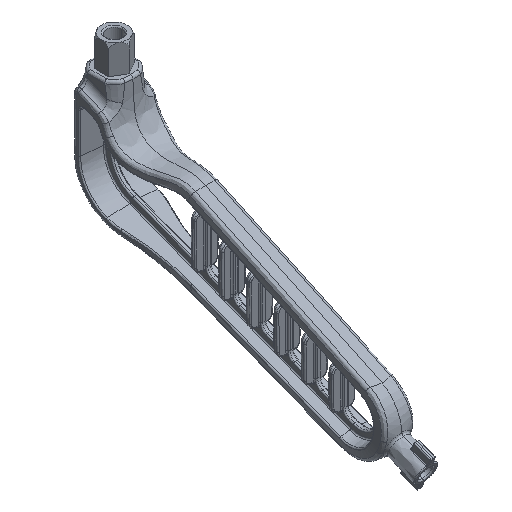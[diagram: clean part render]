
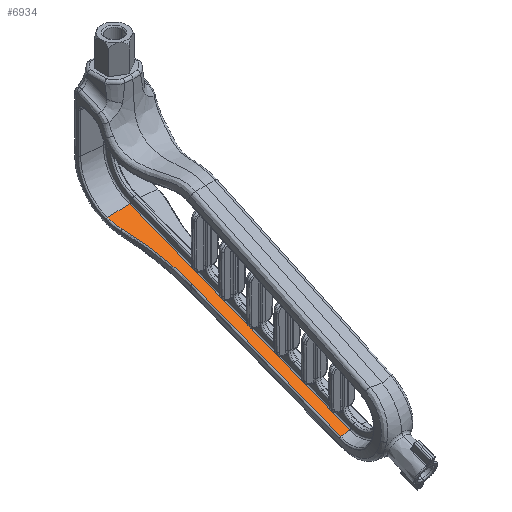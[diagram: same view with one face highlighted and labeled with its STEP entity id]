
A CAD part, isometric view. The second image highlights one B-rep face of the part: STEP entity #6934.
In plain terms, the highlighted planar face has unit normal (-0.087, -0.362, 0.928).
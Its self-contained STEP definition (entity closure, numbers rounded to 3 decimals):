
#64 = CARTESIAN_POINT ( 'NONE',  ( -8.849, 39.367, -1.257 ) ) ;
#157 = CARTESIAN_POINT ( 'NONE',  ( -10., 44.262, 0.543 ) ) ;
#3495 = CARTESIAN_POINT ( 'NONE',  ( -4.996, -3.069, -17.439 ) ) ;
#3643 = ORIENTED_EDGE ( 'NONE', *, *, #48501, .T. ) ;
#4554 = EDGE_CURVE ( 'NONE', #15920, #11337, #30369, .T. ) ;
#4930 = CARTESIAN_POINT ( 'NONE',  ( -4.984, 18.035, -9.211 ) ) ;
#6583 = DIRECTION ( 'NONE',  ( 0.087, 0.362, -0.928 ) ) ;
#6734 = VERTEX_POINT ( 'NONE', #9545 ) ;
#6934 = ADVANCED_FACE ( 'NONE', ( #45172 ), #29711, .F. ) ;
#7481 = LINE ( 'NONE', #45840, #19780 ) ;
#7895 = CARTESIAN_POINT ( 'NONE',  ( -4.997, -41.346, -32.362 ) ) ;
#8639 = CARTESIAN_POINT ( 'NONE',  ( -9.544, 44.247, 0.58 ) ) ;
#8664 = EDGE_CURVE ( 'NONE', #37505, #45130, #45671, .T. ) ;
#9545 = CARTESIAN_POINT ( 'NONE',  ( -9.544, 44.247, 0.58 ) ) ;
#11043 = CARTESIAN_POINT ( 'NONE',  ( -9.544, 43.519, 0.296 ) ) ;
#11324 = EDGE_CURVE ( 'NONE', #42307, #37505, #30520, .T. ) ;
#11337 = VERTEX_POINT ( 'NONE', #42630 ) ;
#12381 = CARTESIAN_POINT ( 'NONE',  ( -3.817, -41.287, -32.228 ) ) ;
#13154 = ORIENTED_EDGE ( 'NONE', *, *, #43692, .F. ) ;
#13319 = CARTESIAN_POINT ( 'NONE',  ( -5.065, 19.998, -8.453 ) ) ;
#14591 = CARTESIAN_POINT ( 'NONE',  ( -4.985, 16.069, -9.977 ) ) ;
#15897 = VECTOR ( 'NONE', #35511, 1000. ) ;
#15920 = VERTEX_POINT ( 'NONE', #21751 ) ;
#16337 = VECTOR ( 'NONE', #34999, 1000. ) ;
#18134 = ORIENTED_EDGE ( 'NONE', *, *, #11324, .T. ) ;
#19283 = CARTESIAN_POINT ( 'NONE',  ( -4.997, -41.346, -32.362 ) ) ;
#19286 = CARTESIAN_POINT ( 'NONE',  ( -4.985, 16.069, -9.977 ) ) ;
#19780 = VECTOR ( 'NONE', #22501, 1000. ) ;
#19945 = CARTESIAN_POINT ( 'NONE',  ( -4.985, 16.069, -9.977 ) ) ;
#20006 = LINE ( 'NONE', #31342, #15897 ) ;
#21613 = DIRECTION ( 'NONE',  ( 0., 0.932, 0.363 ) ) ;
#21751 = CARTESIAN_POINT ( 'NONE',  ( -1.456, -41.167, -31.959 ) ) ;
#22501 = DIRECTION ( 'NONE',  ( 0., 0.932, 0.363 ) ) ;
#24838 = VERTEX_POINT ( 'NONE', #39258 ) ;
#27151 = CARTESIAN_POINT ( 'NONE',  ( -1.456, -41.167, -31.959 ) ) ;
#27218 = ORIENTED_EDGE ( 'NONE', *, *, #38540, .T. ) ;
#28204 = EDGE_LOOP ( 'NONE', ( #36636, #3643, #13154, #27218, #18134, #40648, #32617 ) ) ;
#28456 = AXIS2_PLACEMENT_3D ( 'NONE', #157, #6583, #21613 ) ;
#28613 = CARTESIAN_POINT ( 'NONE',  ( -9.544, 42.118, -0.25 ) ) ;
#29711 = PLANE ( 'NONE',  #28456 ) ;
#30369 = B_SPLINE_CURVE_WITH_KNOTS ( 'NONE', 3,
 ( #27151, #42162, #12381, #19283 ),
 .UNSPECIFIED., .F., .F.,
 ( 4, 4 ),
 ( 0.049, 0.881 ),
 .UNSPECIFIED. ) ;
#30520 = B_SPLINE_CURVE_WITH_KNOTS ( 'NONE', 3,
 ( #47293, #28613, #43618, #39443 ),
 .UNSPECIFIED., .F., .F.,
 ( 4, 4 ),
 ( 0., 0.005 ),
 .UNSPECIFIED. ) ;
#31342 = CARTESIAN_POINT ( 'NONE',  ( -10., 44.262, 0.543 ) ) ;
#32617 = ORIENTED_EDGE ( 'NONE', *, *, #35553, .T. ) ;
#34961 = CARTESIAN_POINT ( 'NONE',  ( -5.627, 25.875, -6.215 ) ) ;
#34999 = DIRECTION ( 'NONE',  ( 0., -0.932, -0.363 ) ) ;
#35212 = CARTESIAN_POINT ( 'NONE',  ( -6.595, 31.734, -4.021 ) ) ;
#35450 = CARTESIAN_POINT ( 'NONE',  ( -8.849, 39.367, -1.257 ) ) ;
#35511 = DIRECTION ( 'NONE',  ( 0.996, -0.032, 0.081 ) ) ;
#35553 = EDGE_CURVE ( 'NONE', #45130, #11337, #37757, .T. ) ;
#36636 = ORIENTED_EDGE ( 'NONE', *, *, #4554, .F. ) ;
#37505 = VERTEX_POINT ( 'NONE', #64 ) ;
#37757 = B_SPLINE_CURVE_WITH_KNOTS ( 'NONE', 3,
 ( #14591, #3495, #48521, #7895 ),
 .UNSPECIFIED., .F., .F.,
 ( 4, 4 ),
 ( 0., 0.062 ),
 .UNSPECIFIED. ) ;
#38540 = EDGE_CURVE ( 'NONE', #6734, #42307, #42380, .T. ) ;
#38918 = CARTESIAN_POINT ( 'NONE',  ( -5.387, 23.918, -6.955 ) ) ;
#39258 = CARTESIAN_POINT ( 'NONE',  ( -1.456, 43.99, 1.239 ) ) ;
#39443 = CARTESIAN_POINT ( 'NONE',  ( -8.849, 39.367, -1.257 ) ) ;
#40648 = ORIENTED_EDGE ( 'NONE', *, *, #8664, .T. ) ;
#42162 = CARTESIAN_POINT ( 'NONE',  ( -2.637, -41.227, -32.094 ) ) ;
#42307 = VERTEX_POINT ( 'NONE', #11043 ) ;
#42380 = LINE ( 'NONE', #8639, #16337 ) ;
#42630 = CARTESIAN_POINT ( 'NONE',  ( -4.997, -41.346, -32.362 ) ) ;
#43618 = CARTESIAN_POINT ( 'NONE',  ( -9.309, 40.714, -0.775 ) ) ;
#43692 = EDGE_CURVE ( 'NONE', #6734, #24838, #20006, .T. ) ;
#45130 = VERTEX_POINT ( 'NONE', #19286 ) ;
#45172 = FACE_OUTER_BOUND ( 'NONE', #28204, .T. ) ;
#45671 = B_SPLINE_CURVE_WITH_KNOTS ( 'NONE', 3,
 ( #35450, #47251, #35212, #34961, #38918, #13319, #4930, #19945 ),
 .UNSPECIFIED., .F., .F.,
 ( 4, 2, 2, 4 ),
 ( 0., 0.013, 0.019, 0.025 ),
 .UNSPECIFIED. ) ;
#45840 = CARTESIAN_POINT ( 'NONE',  ( -1.456, 43.99, 1.239 ) ) ;
#47251 = CARTESIAN_POINT ( 'NONE',  ( -7.559, 35.582, -2.612 ) ) ;
#47293 = CARTESIAN_POINT ( 'NONE',  ( -9.544, 43.519, 0.296 ) ) ;
#48501 = EDGE_CURVE ( 'NONE', #15920, #24838, #7481, .T. ) ;
#48521 = CARTESIAN_POINT ( 'NONE',  ( -5., -22.207, -24.901 ) ) ;
